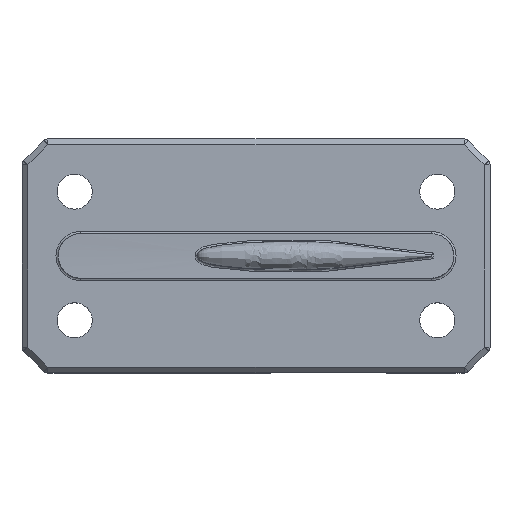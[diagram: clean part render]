
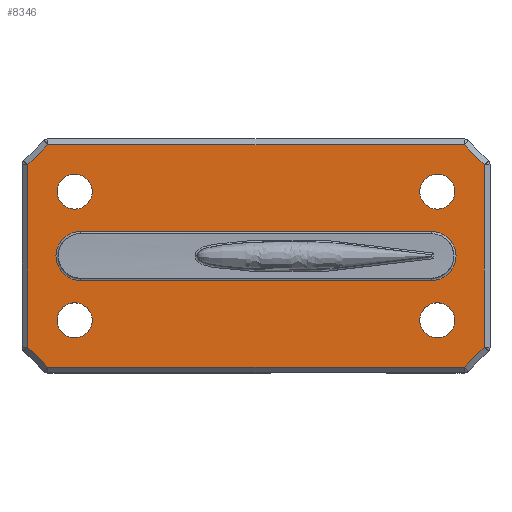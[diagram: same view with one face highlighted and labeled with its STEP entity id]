
A CAD part, top view. The second image highlights one B-rep face of the part: STEP entity #8346.
In plain terms, the highlighted planar face has unit normal (0, 0, 1).
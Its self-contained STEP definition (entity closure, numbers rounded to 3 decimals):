
#2039=AXIS2_PLACEMENT_3D('Circle Axis2P3D',#2037,#2038,$) ;
#2058=AXIS2_PLACEMENT_3D('Circle Axis2P3D',#2056,#2057,$) ;
#2082=AXIS2_PLACEMENT_3D('Circle Axis2P3D',#2080,#2081,$) ;
#2101=AXIS2_PLACEMENT_3D('Circle Axis2P3D',#2099,#2100,$) ;
#2125=AXIS2_PLACEMENT_3D('Circle Axis2P3D',#2123,#2124,$) ;
#2144=AXIS2_PLACEMENT_3D('Circle Axis2P3D',#2142,#2143,$) ;
#2168=AXIS2_PLACEMENT_3D('Circle Axis2P3D',#2166,#2167,$) ;
#2187=AXIS2_PLACEMENT_3D('Circle Axis2P3D',#2185,#2186,$) ;
#3541=AXIS2_PLACEMENT_3D('Circle Axis2P3D',#3539,#3540,$) ;
#3594=AXIS2_PLACEMENT_3D('Circle Axis2P3D',#3592,#3593,$) ;
#8256=AXIS2_PLACEMENT_3D('Plane Axis2P3D',#8253,#8254,#8255) ;
#2034=CARTESIAN_POINT('Vertex',(-12.,5.5,0.)) ;
#2037=CARTESIAN_POINT('Axis2P3D Location',(-10.5,5.5,0.)) ;
#2041=CARTESIAN_POINT('Vertex',(-9.,5.5,0.)) ;
#2056=CARTESIAN_POINT('Axis2P3D Location',(-10.5,5.5,0.)) ;
#2077=CARTESIAN_POINT('Vertex',(22.,5.5,0.)) ;
#2080=CARTESIAN_POINT('Axis2P3D Location',(20.5,5.5,0.)) ;
#2084=CARTESIAN_POINT('Vertex',(19.,5.5,0.)) ;
#2099=CARTESIAN_POINT('Axis2P3D Location',(20.5,5.5,0.)) ;
#2120=CARTESIAN_POINT('Vertex',(-9.,-5.5,0.)) ;
#2123=CARTESIAN_POINT('Axis2P3D Location',(-10.5,-5.5,0.)) ;
#2127=CARTESIAN_POINT('Vertex',(-12.,-5.5,0.)) ;
#2142=CARTESIAN_POINT('Axis2P3D Location',(-10.5,-5.5,0.)) ;
#2163=CARTESIAN_POINT('Vertex',(22.,-5.5,0.)) ;
#2166=CARTESIAN_POINT('Axis2P3D Location',(20.5,-5.5,0.)) ;
#2170=CARTESIAN_POINT('Vertex',(19.,-5.5,0.)) ;
#2185=CARTESIAN_POINT('Axis2P3D Location',(20.5,-5.5,0.)) ;
#3489=CARTESIAN_POINT('Vertex',(20.,-2.1,0.)) ;
#3505=CARTESIAN_POINT('Vertex',(-10.,-2.1,0.)) ;
#3508=CARTESIAN_POINT('Line Origine',(5.,-2.1,0.)) ;
#3536=CARTESIAN_POINT('Vertex',(-10.,2.1,0.)) ;
#3539=CARTESIAN_POINT('Axis2P3D Location',(-10.,0.,0.)) ;
#3567=CARTESIAN_POINT('Vertex',(20.,2.1,0.)) ;
#3570=CARTESIAN_POINT('Line Origine',(5.,2.1,0.)) ;
#3592=CARTESIAN_POINT('Axis2P3D Location',(20.,0.,0.)) ;
#8253=CARTESIAN_POINT('Axis2P3D Location',(0.,0.,0.)) ;
#8258=CARTESIAN_POINT('Line Origine',(24.5,0.,0.)) ;
#8262=CARTESIAN_POINT('Vertex',(24.5,-7.793,0.)) ;
#8264=CARTESIAN_POINT('Vertex',(24.5,7.793,0.)) ;
#8267=CARTESIAN_POINT('Line Origine',(23.646,8.646,0.)) ;
#8271=CARTESIAN_POINT('Vertex',(22.793,9.5,0.)) ;
#8274=CARTESIAN_POINT('Line Origine',(5.,9.5,0.)) ;
#8278=CARTESIAN_POINT('Vertex',(-12.793,9.5,0.)) ;
#8281=CARTESIAN_POINT('Line Origine',(-13.646,8.646,0.)) ;
#8285=CARTESIAN_POINT('Vertex',(-14.5,7.793,0.)) ;
#8288=CARTESIAN_POINT('Line Origine',(-14.5,0.,0.)) ;
#8292=CARTESIAN_POINT('Vertex',(-14.5,-7.793,0.)) ;
#8295=CARTESIAN_POINT('Line Origine',(-13.646,-8.646,0.)) ;
#8299=CARTESIAN_POINT('Vertex',(-12.793,-9.5,0.)) ;
#8302=CARTESIAN_POINT('Line Origine',(5.,-9.5,0.)) ;
#8306=CARTESIAN_POINT('Vertex',(22.793,-9.5,0.)) ;
#8309=CARTESIAN_POINT('Line Origine',(23.646,-8.646,0.)) ;
#2038=DIRECTION('Axis2P3D Direction',(0.,0.,-1.)) ;
#2057=DIRECTION('Axis2P3D Direction',(0.,0.,-1.)) ;
#2081=DIRECTION('Axis2P3D Direction',(0.,0.,-1.)) ;
#2100=DIRECTION('Axis2P3D Direction',(0.,0.,-1.)) ;
#2124=DIRECTION('Axis2P3D Direction',(0.,0.,-1.)) ;
#2143=DIRECTION('Axis2P3D Direction',(0.,0.,-1.)) ;
#2167=DIRECTION('Axis2P3D Direction',(0.,0.,-1.)) ;
#2186=DIRECTION('Axis2P3D Direction',(0.,0.,-1.)) ;
#3509=DIRECTION('Vector Direction',(1.,0.,0.)) ;
#3540=DIRECTION('Axis2P3D Direction',(0.,-0.,1.)) ;
#3571=DIRECTION('Vector Direction',(-1.,0.,0.)) ;
#3593=DIRECTION('Axis2P3D Direction',(0.,0.,1.)) ;
#8254=DIRECTION('Axis2P3D Direction',(0.,-0.,1.)) ;
#8255=DIRECTION('Axis2P3D XDirection',(0.,1.,0.)) ;
#8259=DIRECTION('Vector Direction',(0.,-1.,0.)) ;
#8268=DIRECTION('Vector Direction',(0.707,-0.707,0.)) ;
#8275=DIRECTION('Vector Direction',(-1.,0.,0.)) ;
#8282=DIRECTION('Vector Direction',(0.707,0.707,0.)) ;
#8289=DIRECTION('Vector Direction',(0.,1.,0.)) ;
#8296=DIRECTION('Vector Direction',(-0.707,0.707,0.)) ;
#8303=DIRECTION('Vector Direction',(1.,0.,0.)) ;
#8310=DIRECTION('Vector Direction',(0.707,0.707,0.)) ;
#3510=VECTOR('Line Direction',#3509,1.) ;
#3572=VECTOR('Line Direction',#3571,1.) ;
#8260=VECTOR('Line Direction',#8259,1.) ;
#8269=VECTOR('Line Direction',#8268,1.) ;
#8276=VECTOR('Line Direction',#8275,1.) ;
#8283=VECTOR('Line Direction',#8282,1.) ;
#8290=VECTOR('Line Direction',#8289,1.) ;
#8297=VECTOR('Line Direction',#8296,1.) ;
#8304=VECTOR('Line Direction',#8303,1.) ;
#8311=VECTOR('Line Direction',#8310,1.) ;
#8315=ORIENTED_EDGE('',*,*,#8266,.T.) ;
#8316=ORIENTED_EDGE('',*,*,#8273,.T.) ;
#8317=ORIENTED_EDGE('',*,*,#8280,.T.) ;
#8318=ORIENTED_EDGE('',*,*,#8287,.T.) ;
#8319=ORIENTED_EDGE('',*,*,#8294,.T.) ;
#8320=ORIENTED_EDGE('',*,*,#8301,.T.) ;
#8321=ORIENTED_EDGE('',*,*,#8308,.T.) ;
#8322=ORIENTED_EDGE('',*,*,#8313,.T.) ;
#8325=ORIENTED_EDGE('',*,*,#3512,.T.) ;
#8326=ORIENTED_EDGE('',*,*,#3543,.T.) ;
#8327=ORIENTED_EDGE('',*,*,#3574,.T.) ;
#8328=ORIENTED_EDGE('',*,*,#3596,.T.) ;
#8331=ORIENTED_EDGE('',*,*,#2043,.F.) ;
#8332=ORIENTED_EDGE('',*,*,#2060,.F.) ;
#8335=ORIENTED_EDGE('',*,*,#2086,.F.) ;
#8336=ORIENTED_EDGE('',*,*,#2103,.F.) ;
#8339=ORIENTED_EDGE('',*,*,#2129,.F.) ;
#8340=ORIENTED_EDGE('',*,*,#2146,.F.) ;
#8343=ORIENTED_EDGE('',*,*,#2172,.F.) ;
#8344=ORIENTED_EDGE('',*,*,#2189,.F.) ;
#8329=FACE_BOUND('',#8324,.T.) ;
#8333=FACE_BOUND('',#8330,.T.) ;
#8337=FACE_BOUND('',#8334,.T.) ;
#8341=FACE_BOUND('',#8338,.T.) ;
#8345=FACE_BOUND('',#8342,.T.) ;
#8346=ADVANCED_FACE('Corps principal',(#8323,#8329,#8333,#8337,#8341,#8345),#8257,.T.) ;
#2040=CIRCLE('generated circle',#2039,1.5) ;
#2059=CIRCLE('generated circle',#2058,1.5) ;
#2083=CIRCLE('generated circle',#2082,1.5) ;
#2102=CIRCLE('generated circle',#2101,1.5) ;
#2126=CIRCLE('generated circle',#2125,1.5) ;
#2145=CIRCLE('generated circle',#2144,1.5) ;
#2169=CIRCLE('generated circle',#2168,1.5) ;
#2188=CIRCLE('generated circle',#2187,1.5) ;
#3542=CIRCLE('generated circle',#3541,2.1) ;
#3595=CIRCLE('generated circle',#3594,2.1) ;
#2043=EDGE_CURVE('',#2035,#2042,#2040,.F.) ;
#2060=EDGE_CURVE('',#2042,#2035,#2059,.F.) ;
#2086=EDGE_CURVE('',#2078,#2085,#2083,.F.) ;
#2103=EDGE_CURVE('',#2085,#2078,#2102,.F.) ;
#2129=EDGE_CURVE('',#2121,#2128,#2126,.F.) ;
#2146=EDGE_CURVE('',#2128,#2121,#2145,.F.) ;
#2172=EDGE_CURVE('',#2164,#2171,#2169,.F.) ;
#2189=EDGE_CURVE('',#2171,#2164,#2188,.F.) ;
#3512=EDGE_CURVE('',#3490,#3506,#3511,.F.) ;
#3543=EDGE_CURVE('',#3506,#3537,#3542,.F.) ;
#3574=EDGE_CURVE('',#3537,#3568,#3573,.F.) ;
#3596=EDGE_CURVE('',#3568,#3490,#3595,.F.) ;
#8266=EDGE_CURVE('',#8263,#8265,#8261,.F.) ;
#8273=EDGE_CURVE('',#8265,#8272,#8270,.F.) ;
#8280=EDGE_CURVE('',#8272,#8279,#8277,.T.) ;
#8287=EDGE_CURVE('',#8279,#8286,#8284,.F.) ;
#8294=EDGE_CURVE('',#8286,#8293,#8291,.F.) ;
#8301=EDGE_CURVE('',#8293,#8300,#8298,.F.) ;
#8308=EDGE_CURVE('',#8300,#8307,#8305,.T.) ;
#8313=EDGE_CURVE('',#8307,#8263,#8312,.T.) ;
#8314=EDGE_LOOP('',(#8315,#8316,#8317,#8318,#8319,#8320,#8321,#8322)) ;
#8324=EDGE_LOOP('',(#8325,#8326,#8327,#8328)) ;
#8330=EDGE_LOOP('',(#8331,#8332)) ;
#8334=EDGE_LOOP('',(#8335,#8336)) ;
#8338=EDGE_LOOP('',(#8339,#8340)) ;
#8342=EDGE_LOOP('',(#8343,#8344)) ;
#8323=FACE_OUTER_BOUND('',#8314,.T.) ;
#3511=LINE('Line',#3508,#3510) ;
#3573=LINE('Line',#3570,#3572) ;
#8261=LINE('Line',#8258,#8260) ;
#8270=LINE('Line',#8267,#8269) ;
#8277=LINE('Line',#8274,#8276) ;
#8284=LINE('Line',#8281,#8283) ;
#8291=LINE('Line',#8288,#8290) ;
#8298=LINE('Line',#8295,#8297) ;
#8305=LINE('Line',#8302,#8304) ;
#8312=LINE('Line',#8309,#8311) ;
#8257=PLANE('',#8256) ;
#2035=VERTEX_POINT('',#2034) ;
#2042=VERTEX_POINT('',#2041) ;
#2078=VERTEX_POINT('',#2077) ;
#2085=VERTEX_POINT('',#2084) ;
#2121=VERTEX_POINT('',#2120) ;
#2128=VERTEX_POINT('',#2127) ;
#2164=VERTEX_POINT('',#2163) ;
#2171=VERTEX_POINT('',#2170) ;
#3490=VERTEX_POINT('',#3489) ;
#3506=VERTEX_POINT('',#3505) ;
#3537=VERTEX_POINT('',#3536) ;
#3568=VERTEX_POINT('',#3567) ;
#8263=VERTEX_POINT('',#8262) ;
#8265=VERTEX_POINT('',#8264) ;
#8272=VERTEX_POINT('',#8271) ;
#8279=VERTEX_POINT('',#8278) ;
#8286=VERTEX_POINT('',#8285) ;
#8293=VERTEX_POINT('',#8292) ;
#8300=VERTEX_POINT('',#8299) ;
#8307=VERTEX_POINT('',#8306) ;
